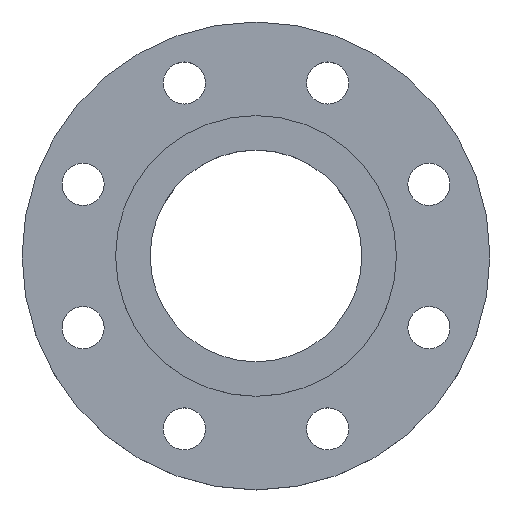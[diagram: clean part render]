
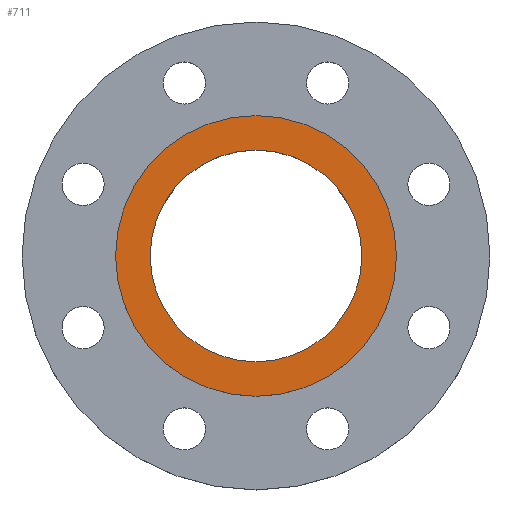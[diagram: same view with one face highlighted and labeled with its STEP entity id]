
A CAD part, top view. The second image highlights one B-rep face of the part: STEP entity #711.
In plain terms, the highlighted planar face has unit normal (0, 0, 1).
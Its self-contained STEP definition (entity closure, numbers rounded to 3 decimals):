
#48 = CIRCLE ( 'NONE', #404, 45.25 ) ;
#56 = AXIS2_PLACEMENT_3D ( 'NONE', #276, #275, #274 ) ;
#69 = CIRCLE ( 'NONE', #399, 60. ) ;
#70 = EDGE_CURVE ( 'NONE', #781, #861, #48, .T. ) ;
#108 = CARTESIAN_POINT ( 'NONE',  ( -45.25, 0., 0. ) ) ;
#125 = CARTESIAN_POINT ( 'NONE',  ( -60., 0., 0. ) ) ;
#134 = CARTESIAN_POINT ( 'NONE',  ( 45.25, 0., 0. ) ) ;
#155 = DIRECTION ( 'NONE',  ( 1., 0., 0. ) ) ;
#156 = DIRECTION ( 'NONE',  ( 0., 0., 1. ) ) ;
#157 = CARTESIAN_POINT ( 'NONE',  ( 0., 0., 0. ) ) ;
#159 = PLANE ( 'NONE',  #362 ) ;
#160 = FACE_OUTER_BOUND ( 'NONE', #869, .T. ) ;
#162 = FACE_BOUND ( 'NONE', #589, .T. ) ;
#193 = CARTESIAN_POINT ( 'NONE',  ( 60., 0., 0. ) ) ;
#274 = DIRECTION ( 'NONE',  ( -1., 0., 0. ) ) ;
#275 = DIRECTION ( 'NONE',  ( 0., 0., -1. ) ) ;
#276 = CARTESIAN_POINT ( 'NONE',  ( 0., 0., 0. ) ) ;
#298 = DIRECTION ( 'NONE',  ( -1., 0., 0. ) ) ;
#299 = DIRECTION ( 'NONE',  ( 0., 0., -1. ) ) ;
#302 = CARTESIAN_POINT ( 'NONE',  ( 0., 0., 0. ) ) ;
#339 = DIRECTION ( 'NONE',  ( -1., 0., 0. ) ) ;
#341 = DIRECTION ( 'NONE',  ( 0., 0., -1. ) ) ;
#357 = CARTESIAN_POINT ( 'NONE',  ( 0., 0., 0. ) ) ;
#362 = AXIS2_PLACEMENT_3D ( 'NONE', #157, #156, #155 ) ;
#396 = CIRCLE ( 'NONE', #403, 60. ) ;
#399 = AXIS2_PLACEMENT_3D ( 'NONE', #302, #299, #298 ) ;
#403 = AXIS2_PLACEMENT_3D ( 'NONE', #357, #341, #339 ) ;
#404 = AXIS2_PLACEMENT_3D ( 'NONE', #501, #502, #504 ) ;
#416 = EDGE_CURVE ( 'NONE', #654, #846, #396, .T. ) ;
#452 = EDGE_CURVE ( 'NONE', #846, #654, #69, .T. ) ;
#480 = EDGE_CURVE ( 'NONE', #861, #781, #828, .T. ) ;
#501 = CARTESIAN_POINT ( 'NONE',  ( 0., 0., 0. ) ) ;
#502 = DIRECTION ( 'NONE',  ( 0., 0., -1. ) ) ;
#504 = DIRECTION ( 'NONE',  ( -1., 0., 0. ) ) ;
#589 = EDGE_LOOP ( 'NONE', ( #767, #768 ) ) ;
#654 = VERTEX_POINT ( 'NONE', #193 ) ;
#711 = ADVANCED_FACE ( 'NONE', ( #162, #160 ), #159, .T. ) ;
#767 = ORIENTED_EDGE ( 'NONE', *, *, #480, .T. ) ;
#768 = ORIENTED_EDGE ( 'NONE', *, *, #70, .T. ) ;
#769 = ORIENTED_EDGE ( 'NONE', *, *, #452, .F. ) ;
#771 = ORIENTED_EDGE ( 'NONE', *, *, #416, .F. ) ;
#781 = VERTEX_POINT ( 'NONE', #134 ) ;
#828 = CIRCLE ( 'NONE', #56, 45.25 ) ;
#846 = VERTEX_POINT ( 'NONE', #125 ) ;
#861 = VERTEX_POINT ( 'NONE', #108 ) ;
#869 = EDGE_LOOP ( 'NONE', ( #769, #771 ) ) ;
